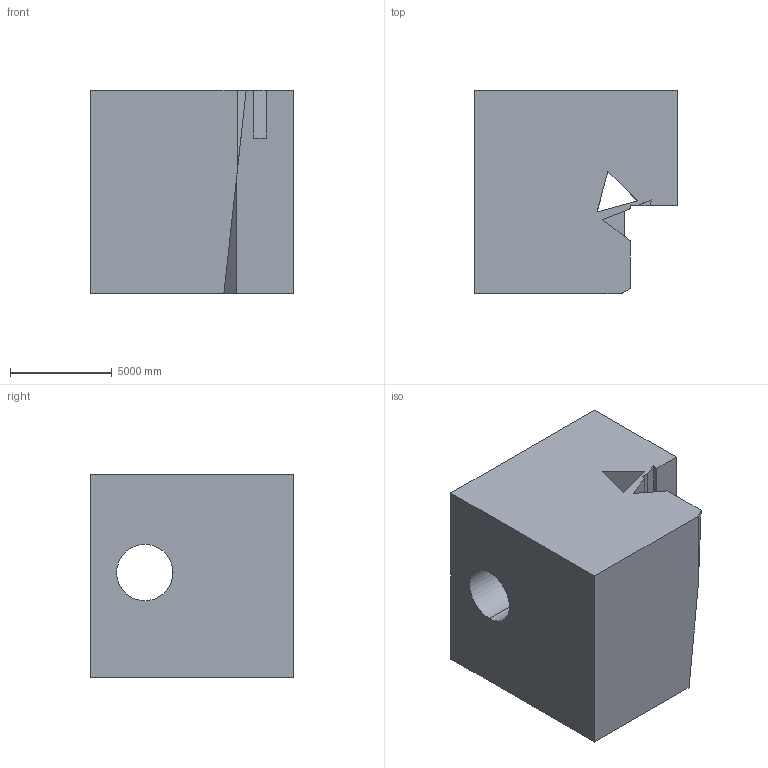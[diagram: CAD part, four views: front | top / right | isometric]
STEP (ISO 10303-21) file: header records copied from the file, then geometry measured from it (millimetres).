
FILE_DESCRIPTION (( 'STEP AP203' ), '1' );
FILE_NAME ('488.STEP', '2022-07-29T11:29:05', ( 'user' ), ( '' ), 'SwSTEP 2.0', 'SolidWorks 2021', '' );
FILE_SCHEMA (( 'CONFIG_CONTROL_DESIGN' ));
Length unit declared in the file: centimetre
Products named in the file (1): 488
Bounding box: 10000 x 10000 x 10000 mm (x, y, z)
Volume: 793832892903.6 mm3; surface area: 708007635.8 mm2
Topology: 1 solids, 1 shells, 20 faces, 60 edges, 40 vertices
Faces by surface type: plane 18, cylinder 2
Entity records: 757 total; most frequent: CARTESIAN_POINT 127, ORIENTED_EDGE 120, DIRECTION 104, EDGE_CURVE 60, LINE 54, VECTOR 54, VERTEX_POINT 40, AXIS2_PLACEMENT_3D 25
